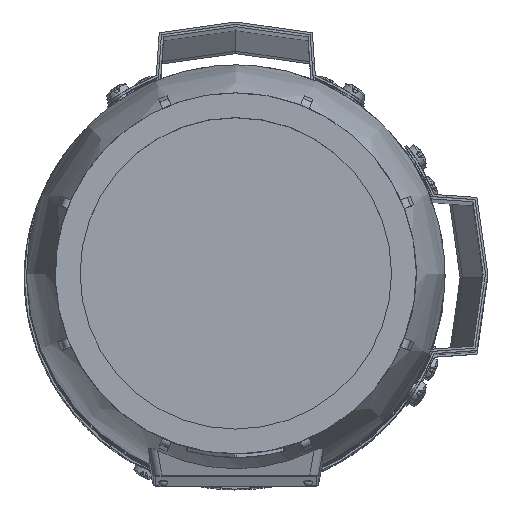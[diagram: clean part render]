
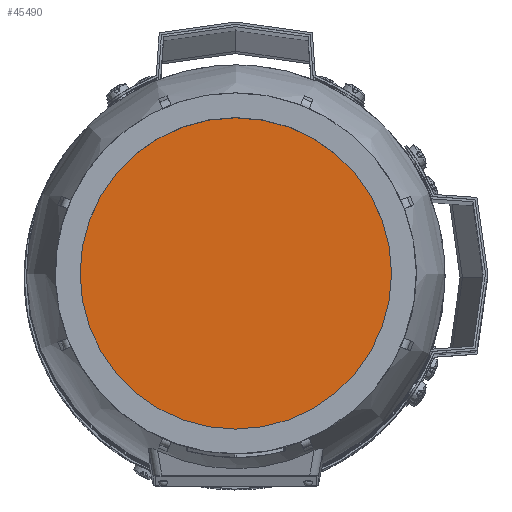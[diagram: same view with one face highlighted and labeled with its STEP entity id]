
A CAD part, top view. The second image highlights one B-rep face of the part: STEP entity #45490.
In plain terms, the highlighted planar face has unit normal (0, 0, 1) as drawn and (0, 1, 0) by its records, which use the part's own axes.
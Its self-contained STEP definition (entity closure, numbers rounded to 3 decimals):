
#9569=ORIENTED_EDGE('',*,*,#23307,.F.);
#23307=EDGE_CURVE('',#30176,#30176,#34803,.T.);
#30176=VERTEX_POINT('',#65659);
#34803=CIRCLE('',#47978,67.736);
#36879=EDGE_LOOP('',(#9569));
#40187=FACE_BOUND('',#36879,.T.);
#43513=PLANE('',#47977);
#45490=ADVANCED_FACE('',(#40187),#43513,.F.);
#47977=AXIS2_PLACEMENT_3D('',#65657,#52476,#52477);
#47978=AXIS2_PLACEMENT_3D('',#65658,#52478,#52479);
#52476=DIRECTION('',(0.,-1.,0.));
#52477=DIRECTION('',(0.,0.,-1.));
#52478=DIRECTION('',(0.,-1.,0.));
#52479=DIRECTION('',(0.,0.,-1.));
#65657=CARTESIAN_POINT('',(0.,154.,0.));
#65658=CARTESIAN_POINT('',(0.,154.,0.));
#65659=CARTESIAN_POINT('',(0.,154.,-67.736));
